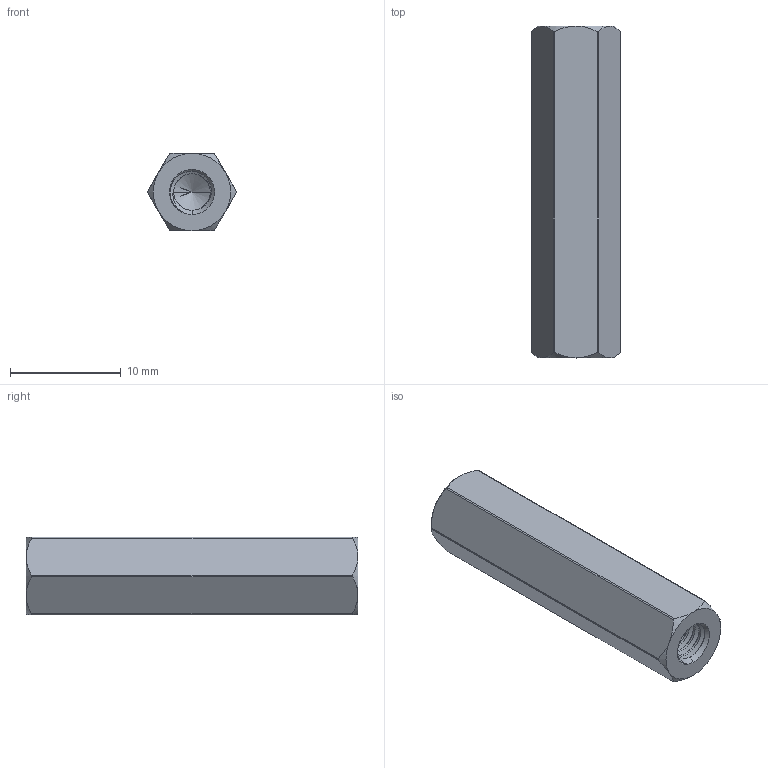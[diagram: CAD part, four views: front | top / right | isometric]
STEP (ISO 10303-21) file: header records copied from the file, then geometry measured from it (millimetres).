
FILE_DESCRIPTION (( 'STEP AP203' ), '1' );
FILE_NAME ('1516-4008-0300.STEP', '2022-08-26T14:57:11', ( '' ), ( '' ), 'SwSTEP 2.0', 'SolidWorks 2016', '' );
FILE_SCHEMA (( 'CONFIG_CONTROL_DESIGN' ));
Length unit declared in the file: millimetre
Products named in the file (1): 1516-4008-0300
Bounding box: 8 x 30 x 7 mm (x, y, z)
Volume: 1055.8 mm3; surface area: 1153.2 mm2
Topology: 1 solids, 1 shells, 148 faces, 422 edges, 274 vertices
Faces by surface type: cylinder 114, cone 20, plane 10, bspline 4
Entity records: 10327 total; most frequent: CARTESIAN_POINT 7087, ORIENTED_EDGE 836, DIRECTION 512, EDGE_CURVE 418, VERTEX_POINT 274, AXIS2_PLACEMENT_3D 193, EDGE_LOOP 150, ADVANCED_FACE 148
